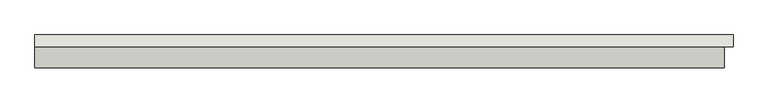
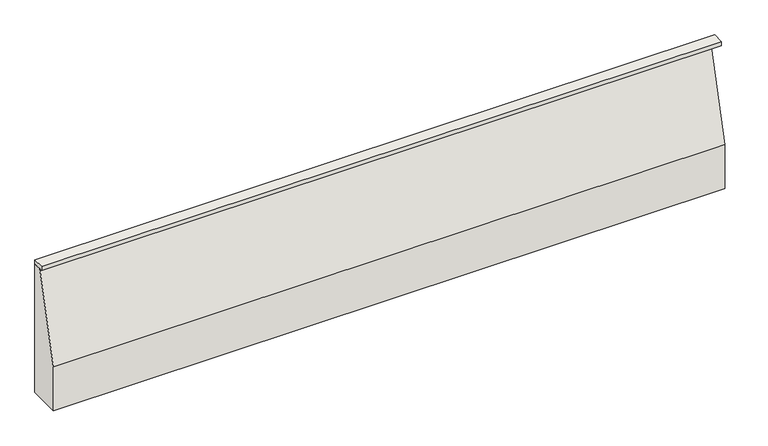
"""IFC4 building model written with IfcOpenShell, lengths in millimetres: wall geometry, Murs soutènement fruit : Murs soutènement fruit."""

import ifcopenshell
import ifcopenshell.guid

model = None  # the IFC model being written
_history = None  # IfcOwnerHistory: only IFC2X3 demands one
_inside = {}  # id of a spatial element -> (the spatial element, [elements in it])
_under = {}  # id of a project, library or spatial element -> (it, [spatial elements below it])
_declared = {}  # id of a project -> (the project, [libraries it declares])
_typed = {}  # id of a type object -> (the type object, [elements of that type])
_made_of = {}  # id of a material, layer set ... -> (it, [elements and type objects made of it])


def new_model(schema):
    """Start an empty IFC model of exactly this schema.

    Asked for "IFC4X3", IfcOpenShell would pick the latest addendum, in which some entities
    have other attributes; the version numbers below select the first issue.
    IFC2X3 requires an IfcOwnerHistory on every rooted entity: one is made here for all.
    """
    global model, _history
    if schema == "IFC4X3":
        model = ifcopenshell.file(schema_version=(4, 3, 0, 0))
    else:
        model = ifcopenshell.file(schema=schema)
    _inside.clear()
    _under.clear()
    _declared.clear()
    _typed.clear()
    _made_of.clear()
    _history = None
    if model.schema == "IFC2X3":
        org = make("IfcOrganization", Name="unknown")
        user = make(
            "IfcPersonAndOrganization",
            ThePerson=make("IfcPerson", FamilyName="unknown"),
            TheOrganization=org,
        )
        app = make(
            "IfcApplication",
            ApplicationDeveloper=org,
            Version="unknown",
            ApplicationFullName="unknown",
            ApplicationIdentifier="unknown",
        )
        _history = make(
            "IfcOwnerHistory",
            OwningUser=user,
            OwningApplication=app,
            ChangeAction="ADDED",
            CreationDate=0,
        )
    return model


def make(cls, **values):
    """One entity of the class cls with the attributes given. An attribute that is None is left unset."""
    return model.create_entity(
        cls, **{name: value for name, value in values.items() if value is not None}
    )


def rooted(cls, **values):
    """An entity with a GlobalId (a new one), such as an element, a storey or a relation."""
    return make(cls, GlobalId=ifcopenshell.guid.new(), OwnerHistory=_history, **values)


def si_unit(unit_type, name, prefix=None):
    """IfcSIUnit, for example si_unit("LENGTHUNIT", "METRE", prefix="MILLI")."""
    return make("IfcSIUnit", UnitType=unit_type, Prefix=prefix, Name=name)


def assignment(units):
    """IfcUnitAssignment: the units of a project."""
    return None if units is None else make("IfcUnitAssignment", Units=units)


def point(xyz):
    """IfcCartesianPoint."""
    return None if xyz is None else make("IfcCartesianPoint", Coordinates=xyz)


def direction(xyz):
    """IfcDirection."""
    return None if xyz is None else make("IfcDirection", DirectionRatios=xyz)


def frame(location, z_axis=None, x_axis=None):
    """IfcAxis2Placement3D, a coordinate frame: its origin and axes. An axis left out is left unset."""
    return make(
        "IfcAxis2Placement3D",
        Location=point(location),
        Axis=direction(z_axis),
        RefDirection=direction(x_axis),
    )


def origin():
    """The frame at (0, 0, 0) with its axes left unset."""
    return frame((0.0, 0.0, 0.0))


def place(relative_to, where):
    """IfcLocalPlacement: puts the frame where relative to a parent placement (None: the world)."""
    return make(
        "IfcLocalPlacement", PlacementRelTo=relative_to, RelativePlacement=where
    )


def context(
    kind, dimensions, precision=None, world=None, true_north=None, identifier=None
):
    """IfcGeometricRepresentationContext, for example the 3D "Model" context."""
    return make(
        "IfcGeometricRepresentationContext",
        ContextIdentifier=identifier,
        ContextType=kind,
        CoordinateSpaceDimension=dimensions,
        Precision=precision,
        WorldCoordinateSystem=world,
        TrueNorth=true_north,
    )


def project(units=None, contexts=None):
    """IfcProject with its units and contexts."""
    return rooted(
        "IfcProject",
        Name="project",
        RepresentationContexts=contexts,
        UnitsInContext=assignment(units),
    )


def spatial(cls, under=None, at=None, **own):
    """A site, building, storey or space (cls), placed at a placement, below another one or the project."""
    s = rooted(cls, ObjectPlacement=at, **own)
    if under is not None:
        _under.setdefault(under.id(), (under, []))[1].append(s)
    return s


def polyline(points):
    """IfcPolyline through the points."""
    return make("IfcPolyline", Points=[point(p) for p in points])


def outline(outer, holes=None, kind="AREA"):
    """IfcArbitraryClosedProfileDef: a profile drawn as a closed curve; with holes, ...WithVoids."""
    if holes is None:
        return make("IfcArbitraryClosedProfileDef", ProfileType=kind, OuterCurve=outer)
    return make(
        "IfcArbitraryProfileDefWithVoids",
        ProfileType=kind,
        OuterCurve=outer,
        InnerCurves=holes,
    )


def extrude(swept, where, along, depth):
    """IfcExtrudedAreaSolid: the profile swept, set in the frame where, extruded along a direction by depth."""
    return make(
        "IfcExtrudedAreaSolid",
        SweptArea=swept,
        Position=where,
        ExtrudedDirection=direction(along),
        Depth=depth,
    )


def shape(context_of_items, identifier, shape_type, items):
    """IfcShapeRepresentation: the items that make up one representation, for example the "Body"."""
    return make(
        "IfcShapeRepresentation",
        ContextOfItems=context_of_items,
        RepresentationIdentifier=identifier,
        RepresentationType=shape_type,
        Items=items,
    )


def source(mapping_origin, context_of_items, identifier, shape_type, items):
    """IfcRepresentationMap: a shape defined once, which mapped items show again and again."""
    return make(
        "IfcRepresentationMap",
        MappingOrigin=mapping_origin,
        MappedRepresentation=shape(context_of_items, identifier, shape_type, items),
    )


def transform(
    local_origin,
    x_axis=None,
    y_axis=None,
    z_axis=None,
    scale=None,
    scale2=None,
    scale3=None,
    uniform=True,
):
    """IfcCartesianTransformationOperator3D, or its non-uniform kind. x_axis, y_axis, z_axis: its Axis1, 2, 3."""
    if uniform:
        return make(
            "IfcCartesianTransformationOperator3D",
            Axis1=direction(x_axis),
            Axis2=direction(y_axis),
            LocalOrigin=point(local_origin),
            Scale=scale,
            Axis3=direction(z_axis),
        )
    return make(
        "IfcCartesianTransformationOperator3DnonUniform",
        Axis1=direction(x_axis),
        Axis2=direction(y_axis),
        LocalOrigin=point(local_origin),
        Scale=scale,
        Axis3=direction(z_axis),
        Scale2=scale2,
        Scale3=scale3,
    )


def mapped(mapping_source, mapping_target):
    """IfcMappedItem: shows the shape of a source again, moved by a transform."""
    return make(
        "IfcMappedItem", MappingSource=mapping_source, MappingTarget=mapping_target
    )


def made_of(thing, what):
    """Note that an element or type object is made of a material, layer set ...; save() writes the relation."""
    if what is not None:
        _made_of.setdefault(what.id(), (what, []))[1].append(thing)
    return thing


def element(
    cls,
    number,
    at=None,
    inside=None,
    cuts=None,
    type_object=None,
    material=None,
    context=None,
    identifier="Body",
    shape_type=None,
    held_by="IfcProductDefinitionShape",
    body=None,
    shapes=None,
    **own,
):
    """One element of the class cls, such as IfcWall. Its Tag is "e" and its number.

    at: its placement. inside: the storey or other place that contains it. cuts: it is an
    opening in that element (IfcRelVoidsElement). A single representation is given by context,
    identifier, shape_type and body (its items); several are given by shapes. held_by: the class
    of the entity that holds the representations. save() writes the other relations.
    """
    e = rooted(cls, Tag="e%d" % number, ObjectPlacement=at, **own)
    if body is not None:
        shapes = [shape(context, identifier, shape_type, body)]
    if shapes is not None:
        e.Representation = make(held_by, Representations=shapes)
    if inside is not None:
        _inside.setdefault(inside.id(), (inside, []))[1].append(e)
    if cuts is not None:
        rooted(
            "IfcRelVoidsElement", RelatingBuildingElement=cuts, RelatedOpeningElement=e
        )
    if type_object is not None:
        _typed.setdefault(type_object.id(), (type_object, []))[1].append(e)
    return made_of(e, material)


def aggregate(whole, parts):
    """IfcRelAggregates: a whole, such as a stair, and the parts it consists of."""
    return rooted("IfcRelAggregates", RelatingObject=whole, RelatedObjects=parts)


def save(model, path):
    """Write the relations noted so far, then the file.

    IfcRelAggregates (storeys below a building ...), IfcRelContainedInSpatialStructure (elements
    in a storey), IfcRelDefinesByType, IfcRelAssociatesMaterial and IfcRelDeclares: one each for
    every whole, place, type object, material and project.
    """
    for whole, parts in _under.values():
        aggregate(whole, parts)
    for where, things in _inside.values():
        rooted(
            "IfcRelContainedInSpatialStructure",
            RelatedElements=things,
            RelatingStructure=where,
        )
    for kind, things in _typed.values():
        rooted("IfcRelDefinesByType", RelatedObjects=things, RelatingType=kind)
    for what, things in _made_of.values():
        rooted("IfcRelAssociatesMaterial", RelatedObjects=things, RelatingMaterial=what)
    for by, libraries in _declared.values():
        rooted("IfcRelDeclares", RelatingContext=by, RelatedDefinitions=libraries)
    model.write(path)


def wall_d9dcbccc(model_context):
    return source(origin(), model_context, "Body", "SweptSolid", [
        extrude(outline(polyline([(-6931.7533607, 9344.124191), (-6931.7533607, 9619.124191), (9078.2466393, 9619.124191), (9078.2466393, 9344.124191), (-6931.7533607, 9344.124191)])), frame((0.0, 0.0, 2680.0), z_axis=(0.0, 0.0, 1.0), x_axis=(1.0, 0.0, 0.0)), (0.0, 0.0, 1.0), 100.0),
        extrude(outline(polyline([(8869.124191, -530.0), (8869.124191, 570.0), (9419.124191, 2680.0), (9619.124191, 2680.0), (9619.124191, -530.0), (8869.124191, -530.0)])), frame((-6931.7533607, 0.0, 0.0), z_axis=(1.0, 0.0, 0.0), x_axis=(0.0, 1.0, 0.0)), (0.0, 0.0, 1.0), 15811.0808467),
    ])


if __name__ == "__main__":
    model = new_model("IFC4")
    model_context = context("Model", 3, world=origin())
    ifc_project = project(units=[si_unit("LENGTHUNIT", "METRE", prefix="MILLI")], contexts=[model_context])
    site = spatial("IfcSite", under=ifc_project)
    building = spatial("IfcBuilding", under=site)
    placement = place(None, origin())
    wall_shape = wall_d9dcbccc(model_context)
    element("IfcWall", 1, ObjectType="Murs soutènement fruit : Murs soutènement fruit", at=placement, inside=building, context=model_context, shape_type="MappedRepresentation", body=[
        mapped(wall_shape, transform((0.0, 0.0, 0.0), x_axis=(1.0, 0.0, 0.0), y_axis=(0.0, 1.0, 0.0), z_axis=(0.0, 0.0, 1.0))),
    ])
    save(model, "model.ifc")
